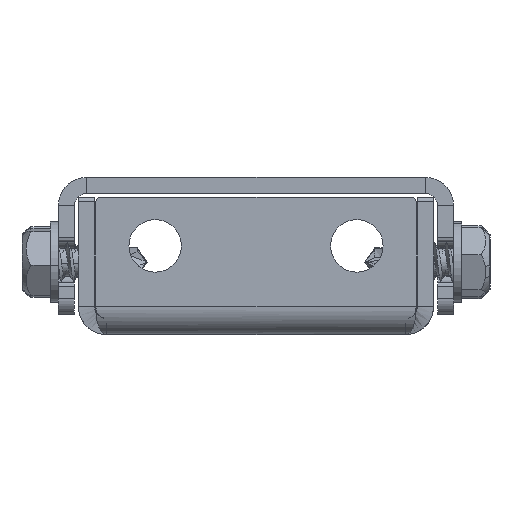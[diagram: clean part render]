
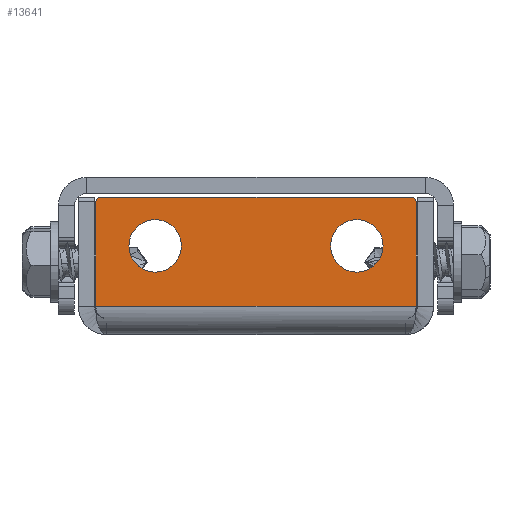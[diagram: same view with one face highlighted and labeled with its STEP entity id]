
A CAD part, left-side view. The second image highlights one B-rep face of the part: STEP entity #13641.
In plain terms, the highlighted planar face has unit normal (-1, 0, 0).
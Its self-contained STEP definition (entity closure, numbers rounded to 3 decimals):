
#158 = VERTEX_POINT ( 'NONE', #69365 ) ;
#615 = DIRECTION ( 'NONE',  ( 0., -1., 0. ) ) ;
#991 = ORIENTED_EDGE ( 'NONE', *, *, #39226, .T. ) ;
#2313 = CIRCLE ( 'NONE', #37853, 3.25 ) ;
#2605 = VECTOR ( 'NONE', #22670, 1000. ) ;
#5484 = CIRCLE ( 'NONE', #57571, 3.25 ) ;
#5555 = CIRCLE ( 'NONE', #41298, 3.25 ) ;
#6170 = ORIENTED_EDGE ( 'NONE', *, *, #64579, .T. ) ;
#6437 = DIRECTION ( 'NONE',  ( 0., 0., -1. ) ) ;
#6648 = VECTOR ( 'NONE', #615, 1000. ) ;
#6977 = VECTOR ( 'NONE', #7303, 1000. ) ;
#7303 = DIRECTION ( 'NONE',  ( 0., -1., 0. ) ) ;
#7387 = AXIS2_PLACEMENT_3D ( 'NONE', #45709, #20619, #39327 ) ;
#8480 = DIRECTION ( 'NONE',  ( 0., 0., -1. ) ) ;
#9892 = ORIENTED_EDGE ( 'NONE', *, *, #15315, .T. ) ;
#10343 = LINE ( 'NONE', #22277, #2605 ) ;
#10496 = AXIS2_PLACEMENT_3D ( 'NONE', #12024, #62142, #60952 ) ;
#11775 = CARTESIAN_POINT ( 'NONE',  ( -26., -19.359, -16.5 ) ) ;
#12024 = CARTESIAN_POINT ( 'NONE',  ( -26., -12.5, -11. ) ) ;
#13641 = ADVANCED_FACE ( 'NONE', ( #27783, #44913, #51275 ), #62788, .F. ) ;
#15289 = EDGE_LOOP ( 'NONE', ( #6170, #9892, #55971, #75706, #28560, #30583 ) ) ;
#15315 = EDGE_CURVE ( 'NONE', #30979, #46872, #35493, .T. ) ;
#15431 = CARTESIAN_POINT ( 'NONE',  ( -26., 12.5, -14.25 ) ) ;
#16157 = DIRECTION ( 'NONE',  ( 1., 0., 0. ) ) ;
#16276 = CARTESIAN_POINT ( 'NONE',  ( -26., -19.859, -3.5 ) ) ;
#17387 = VERTEX_POINT ( 'NONE', #39304 ) ;
#20619 = DIRECTION ( 'NONE',  ( 1., 0., 0. ) ) ;
#22277 = CARTESIAN_POINT ( 'NONE',  ( -26., 19.859, -3.5 ) ) ;
#22385 = VERTEX_POINT ( 'NONE', #31667 ) ;
#22670 = DIRECTION ( 'NONE',  ( 0., 0., -1. ) ) ;
#23321 = DIRECTION ( 'NONE',  ( 1., 0., 0. ) ) ;
#24993 = CARTESIAN_POINT ( 'NONE',  ( -26., 19.359, -16.5 ) ) ;
#25179 = CIRCLE ( 'NONE', #69642, 0.5 ) ;
#27783 = FACE_BOUND ( 'NONE', #48239, .T. ) ;
#28017 = EDGE_CURVE ( 'NONE', #32324, #46872, #39371, .T. ) ;
#28560 = ORIENTED_EDGE ( 'NONE', *, *, #61564, .T. ) ;
#30583 = ORIENTED_EDGE ( 'NONE', *, *, #34376, .T. ) ;
#30819 = CARTESIAN_POINT ( 'NONE',  ( -26., 0., -17. ) ) ;
#30979 = VERTEX_POINT ( 'NONE', #66434 ) ;
#31667 = CARTESIAN_POINT ( 'NONE',  ( -26., -12.5, -7.75 ) ) ;
#31678 = AXIS2_PLACEMENT_3D ( 'NONE', #11775, #62966, #8480 ) ;
#31751 = DIRECTION ( 'NONE',  ( -1., 0., 0. ) ) ;
#32324 = VERTEX_POINT ( 'NONE', #41924 ) ;
#33016 = DIRECTION ( 'NONE',  ( 0., 0., -1. ) ) ;
#34376 = EDGE_CURVE ( 'NONE', #17387, #61610, #25179, .T. ) ;
#35493 = CIRCLE ( 'NONE', #31678, 0.5 ) ;
#36812 = LINE ( 'NONE', #30819, #6648 ) ;
#37305 = CARTESIAN_POINT ( 'NONE',  ( -26., -19.859, -16.5 ) ) ;
#37853 = AXIS2_PLACEMENT_3D ( 'NONE', #59545, #23321, #71850 ) ;
#39226 = EDGE_CURVE ( 'NONE', #69379, #50455, #2313, .T. ) ;
#39304 = CARTESIAN_POINT ( 'NONE',  ( -26., 19.859, -16.5 ) ) ;
#39327 = DIRECTION ( 'NONE',  ( 0., 0., -1. ) ) ;
#39371 = LINE ( 'NONE', #16276, #72207 ) ;
#41298 = AXIS2_PLACEMENT_3D ( 'NONE', #67118, #16157, #56769 ) ;
#41868 = VERTEX_POINT ( 'NONE', #48933 ) ;
#41924 = CARTESIAN_POINT ( 'NONE',  ( -26., -19.859, -3.5 ) ) ;
#43611 = EDGE_CURVE ( 'NONE', #22385, #41868, #59992, .T. ) ;
#44913 = FACE_BOUND ( 'NONE', #57926, .T. ) ;
#45709 = CARTESIAN_POINT ( 'NONE',  ( -26., 0., 0. ) ) ;
#46872 = VERTEX_POINT ( 'NONE', #37305 ) ;
#47929 = LINE ( 'NONE', #54273, #6977 ) ;
#48239 = EDGE_LOOP ( 'NONE', ( #53225, #75020 ) ) ;
#48933 = CARTESIAN_POINT ( 'NONE',  ( -26., -12.5, -14.25 ) ) ;
#49298 = DIRECTION ( 'NONE',  ( 0., 0., -1. ) ) ;
#50455 = VERTEX_POINT ( 'NONE', #78583 ) ;
#51275 = FACE_OUTER_BOUND ( 'NONE', #15289, .T. ) ;
#53225 = ORIENTED_EDGE ( 'NONE', *, *, #74771, .T. ) ;
#54273 = CARTESIAN_POINT ( 'NONE',  ( -26., -18.5, -3.5 ) ) ;
#55066 = EDGE_CURVE ( 'NONE', #50455, #69379, #5555, .T. ) ;
#55971 = ORIENTED_EDGE ( 'NONE', *, *, #28017, .F. ) ;
#56769 = DIRECTION ( 'NONE',  ( 0., 0., -1. ) ) ;
#57571 = AXIS2_PLACEMENT_3D ( 'NONE', #72079, #72854, #6437 ) ;
#57926 = EDGE_LOOP ( 'NONE', ( #991, #66457 ) ) ;
#59545 = CARTESIAN_POINT ( 'NONE',  ( -26., 12.5, -11. ) ) ;
#59992 = CIRCLE ( 'NONE', #10496, 3.25 ) ;
#60952 = DIRECTION ( 'NONE',  ( 0., 0., -1. ) ) ;
#61564 = EDGE_CURVE ( 'NONE', #158, #17387, #10343, .T. ) ;
#61610 = VERTEX_POINT ( 'NONE', #71567 ) ;
#62142 = DIRECTION ( 'NONE',  ( 1., 0., 0. ) ) ;
#62788 = PLANE ( 'NONE',  #7387 ) ;
#62966 = DIRECTION ( 'NONE',  ( -1., 0., 0. ) ) ;
#64579 = EDGE_CURVE ( 'NONE', #61610, #30979, #36812, .T. ) ;
#66434 = CARTESIAN_POINT ( 'NONE',  ( -26., -19.359, -17. ) ) ;
#66457 = ORIENTED_EDGE ( 'NONE', *, *, #55066, .T. ) ;
#67080 = EDGE_CURVE ( 'NONE', #158, #32324, #47929, .T. ) ;
#67118 = CARTESIAN_POINT ( 'NONE',  ( -26., 12.5, -11. ) ) ;
#69365 = CARTESIAN_POINT ( 'NONE',  ( -26., 19.859, -3.5 ) ) ;
#69379 = VERTEX_POINT ( 'NONE', #15431 ) ;
#69642 = AXIS2_PLACEMENT_3D ( 'NONE', #24993, #31751, #49298 ) ;
#71567 = CARTESIAN_POINT ( 'NONE',  ( -26., 19.359, -17. ) ) ;
#71850 = DIRECTION ( 'NONE',  ( 0., 0., -1. ) ) ;
#72079 = CARTESIAN_POINT ( 'NONE',  ( -26., -12.5, -11. ) ) ;
#72207 = VECTOR ( 'NONE', #33016, 1000. ) ;
#72854 = DIRECTION ( 'NONE',  ( 1., 0., 0. ) ) ;
#74771 = EDGE_CURVE ( 'NONE', #41868, #22385, #5484, .T. ) ;
#75020 = ORIENTED_EDGE ( 'NONE', *, *, #43611, .T. ) ;
#75706 = ORIENTED_EDGE ( 'NONE', *, *, #67080, .F. ) ;
#78583 = CARTESIAN_POINT ( 'NONE',  ( -26., 12.5, -7.75 ) ) ;
